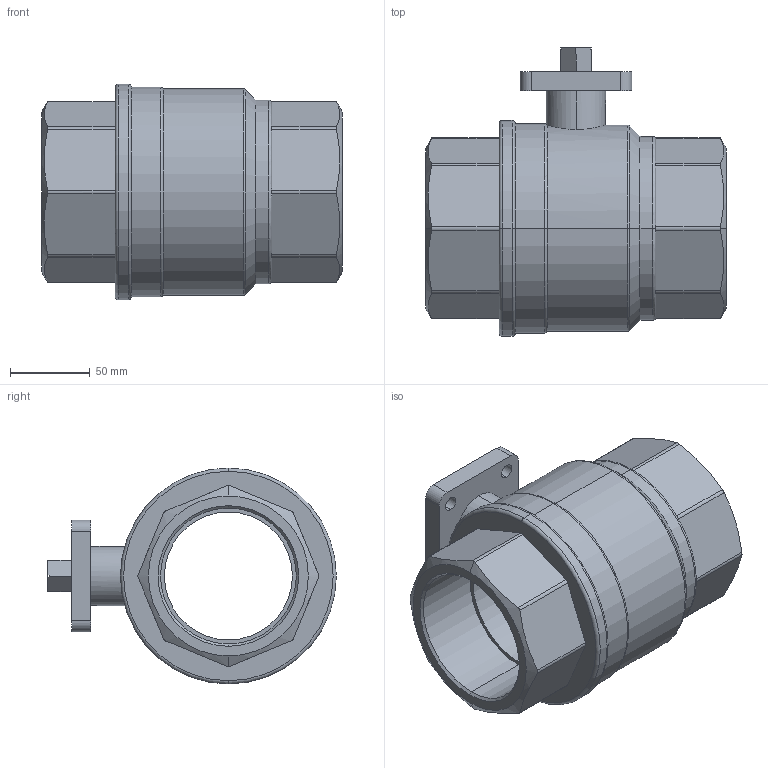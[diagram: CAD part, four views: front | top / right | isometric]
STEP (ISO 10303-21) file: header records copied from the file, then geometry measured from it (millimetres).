
FILE_DESCRIPTION (( 'STEP AP214' ), '1' );
FILE_NAME ('Ballvalve A25-DN80 G3.step', '2010-09-23T08:33:01', ( '' ), ( '' ), 'SwSTEP 2.0', 'SolidWorks 2010', '' );
FILE_SCHEMA (( 'AUTOMOTIVE_DESIGN' ));
Length unit declared in the file: millimetre
Products named in the file (1): Ballvalve A25-DN80 G3
Bounding box: 188 x 180.5 x 135 mm (x, y, z)
Volume: 1157482.4 mm3; surface area: 149080.5 mm2
Topology: 1 solids, 1 shells, 113 faces, 290 edges, 185 vertices
Faces by surface type: cylinder 48, plane 45, torus 10, cone 10
Entity records: 3974 total; most frequent: CARTESIAN_POINT 1131, ORIENTED_EDGE 580, DIRECTION 550, EDGE_CURVE 290, AXIS2_PLACEMENT_3D 212, VERTEX_POINT 185, EDGE_LOOP 129, LINE 126
